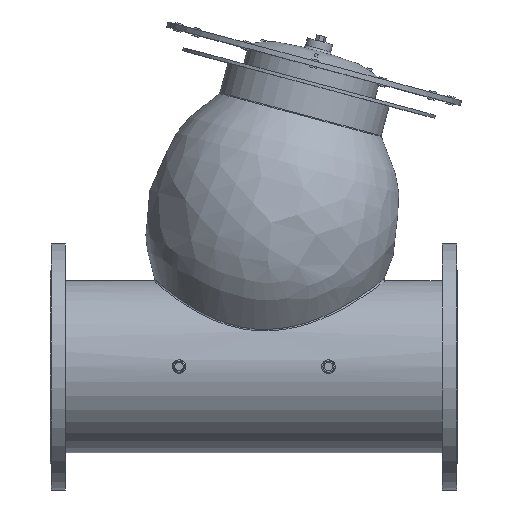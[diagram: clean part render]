
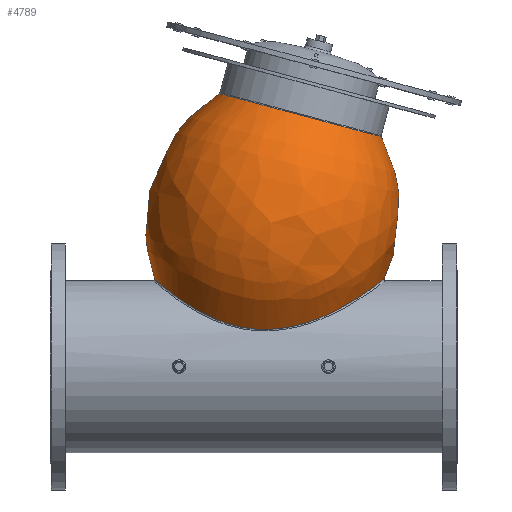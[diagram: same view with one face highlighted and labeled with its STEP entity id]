
A CAD part, top view. The second image highlights one B-rep face of the part: STEP entity #4789.
In plain terms, the highlighted free-form (B-spline) face has degree [2, 2] with [3, 9] control points.
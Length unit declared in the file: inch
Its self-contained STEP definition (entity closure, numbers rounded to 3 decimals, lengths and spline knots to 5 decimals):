
#1366=B_SPLINE_CURVE_WITH_KNOTS('',3,(#6844,#6845,#6846,#6847,#6848,#6849,
#6850,#6851,#6852,#6853,#6854,#6855,#6856,#6857,#6858,#6859,#6860,#6861,
#6862,#6863,#6864,#6865,#6866,#6867,#6868,#6869,#6870,#6871,#6872,#6873),
 .UNSPECIFIED.,.F.,.F.,(4,1,1,1,1,1,1,1,1,1,1,1,1,1,1,1,1,1,1,1,1,1,1,1,
1,1,1,4),(0.,2.74343,5.48685,8.23028,
10.97371,16.46056,21.94742,25.60532,32.92113,
36.57903,40.23693,43.89484,48.77204,51.21064,
58.52645,62.18435,65.84226,69.50016,73.15806,
76.81597,80.47387,82.91247,87.78968,92.66688,
95.10548,102.42129,106.07919,109.45587),
 .UNSPECIFIED.);
#1367=B_SPLINE_CURVE_WITH_KNOTS('',3,(#6874,#6875,#6876,#6877,#6878,#6879,
#6880,#6881,#6882,#6883,#6884,#6885,#6886,#6887),.UNSPECIFIED.,.F.,.F.,
(4,1,1,1,1,1,1,1,1,1,1,4),(109.45587,109.73709,113.395,
117.0529,124.36871,131.68451,137.17137,142.65822,
145.40165,148.14508,150.8885,153.63193),
 .UNSPECIFIED.);
#1395=(
BOUNDED_CURVE()
B_SPLINE_CURVE(2,(#6840,#6841,#6842),.UNSPECIFIED.,.F.,.F.)
B_SPLINE_CURVE_WITH_KNOTS((3,3),(-0.75121,0.80686),
 .UNSPECIFIED.)
CURVE()
GEOMETRIC_REPRESENTATION_ITEM()
RATIONAL_B_SPLINE_CURVE((1.,0.711,0.998))
REPRESENTATION_ITEM('')
);
#1398=(
BOUNDED_SURFACE()
B_SPLINE_SURFACE(2,2,((#6812,#6813,#6814,#6815,#6816,#6817,#6818,#6819,
#6820),(#6821,#6822,#6823,#6824,#6825,#6826,#6827,#6828,#6829),(#6830,#6831,
#6832,#6833,#6834,#6835,#6836,#6837,#6838)),.UNSPECIFIED.,.F.,.T.,.F.)
B_SPLINE_SURFACE_WITH_KNOTS((3,3),(3,2,2,2,3),(-0.81207,0.75121),
(-3.14159,-1.5708,0.,1.5708,3.14159),
 .UNSPECIFIED.)
GEOMETRIC_REPRESENTATION_ITEM()
RATIONAL_B_SPLINE_SURFACE(((1.,0.707,1.,0.707,1.,
0.707,1.,0.707,1.),(0.71,0.502,
0.71,0.502,0.71,0.502,
0.71,0.502,0.71),(1.,0.707,
1.,0.707,1.,0.707,1.,0.707,1.)))
REPRESENTATION_ITEM('')
SURFACE()
);
#1599=FACE_OUTER_BOUND('',#1906,.T.);
#1906=EDGE_LOOP('',(#3526,#3527,#3528,#3529,#3530,#3531));
#2342=CIRCLE('',#5129,8.04037);
#2343=CIRCLE('',#5130,8.04037);
#2451=VERTEX_POINT('',#6806);
#2452=VERTEX_POINT('',#6807);
#2454=VERTEX_POINT('',#6839);
#2455=VERTEX_POINT('',#6843);
#2900=EDGE_CURVE('',#2451,#2452,#2342,.T.);
#2901=EDGE_CURVE('',#2452,#2451,#2343,.T.);
#2903=EDGE_CURVE('',#2452,#2454,#1395,.T.);
#2904=EDGE_CURVE('',#2455,#2454,#1366,.T.);
#2905=EDGE_CURVE('',#2454,#2455,#1367,.T.);
#3526=ORIENTED_EDGE('',*,*,#2900,.F.);
#3527=ORIENTED_EDGE('',*,*,#2901,.F.);
#3528=ORIENTED_EDGE('',*,*,#2903,.T.);
#3529=ORIENTED_EDGE('',*,*,#2904,.F.);
#3530=ORIENTED_EDGE('',*,*,#2905,.F.);
#3531=ORIENTED_EDGE('',*,*,#2903,.F.);
#4789=ADVANCED_FACE('',(#1599),#1398,.F.);
#5129=AXIS2_PLACEMENT_3D('',#6808,#5604,#5605);
#5130=AXIS2_PLACEMENT_3D('',#6809,#5606,#5607);
#5604=DIRECTION('center_axis',(0.259,0.966,0.));
#5605=DIRECTION('ref_axis',(0.966,-0.259,0.));
#5606=DIRECTION('center_axis',(0.259,0.966,0.));
#5607=DIRECTION('ref_axis',(0.966,-0.259,0.));
#6806=CARTESIAN_POINT('',(-3.30877,26.18122,0.));
#6807=CARTESIAN_POINT('',(4.45763,24.10021,-8.04037));
#6808=CARTESIAN_POINT('Origin',(4.45763,24.10021,0.));
#6809=CARTESIAN_POINT('Origin',(4.45763,24.10021,0.));
#6812=CARTESIAN_POINT('Ctrl Pts',(-1.00955,3.6964,-7.39734));
#6813=CARTESIAN_POINT('Ctrl Pts',(-8.15483,5.61097,-7.39734));
#6814=CARTESIAN_POINT('Ctrl Pts',(-8.15483,5.61097,0.));
#6815=CARTESIAN_POINT('Ctrl Pts',(-8.15483,5.61097,7.39734));
#6816=CARTESIAN_POINT('Ctrl Pts',(-1.00955,3.6964,7.39734));
#6817=CARTESIAN_POINT('Ctrl Pts',(6.13573,1.78183,7.39734));
#6818=CARTESIAN_POINT('Ctrl Pts',(6.13573,1.78183,0.));
#6819=CARTESIAN_POINT('Ctrl Pts',(6.13573,1.78183,-7.39734));
#6820=CARTESIAN_POINT('Ctrl Pts',(-1.00955,3.6964,-7.39734));
#6821=CARTESIAN_POINT('Ctrl Pts',(1.64145,13.59007,-18.20159));
#6822=CARTESIAN_POINT('Ctrl Pts',(-15.93994,18.30099,-18.20159));
#6823=CARTESIAN_POINT('Ctrl Pts',(-15.93994,18.30099,0.));
#6824=CARTESIAN_POINT('Ctrl Pts',(-15.93994,18.30099,18.20159));
#6825=CARTESIAN_POINT('Ctrl Pts',(1.64145,13.59007,18.20159));
#6826=CARTESIAN_POINT('Ctrl Pts',(19.22284,8.87915,18.20159));
#6827=CARTESIAN_POINT('Ctrl Pts',(19.22284,8.87915,0.));
#6828=CARTESIAN_POINT('Ctrl Pts',(19.22284,8.87915,-18.20159));
#6829=CARTESIAN_POINT('Ctrl Pts',(1.64145,13.59007,-18.20159));
#6830=CARTESIAN_POINT('Ctrl Pts',(4.45763,24.10021,-8.04037));
#6831=CARTESIAN_POINT('Ctrl Pts',(-3.30877,26.18122,-8.04037));
#6832=CARTESIAN_POINT('Ctrl Pts',(-3.30877,26.18122,0.));
#6833=CARTESIAN_POINT('Ctrl Pts',(-3.30877,26.18122,8.04037));
#6834=CARTESIAN_POINT('Ctrl Pts',(4.45763,24.10021,8.04037));
#6835=CARTESIAN_POINT('Ctrl Pts',(12.22403,22.01921,8.04037));
#6836=CARTESIAN_POINT('Ctrl Pts',(12.22403,22.01921,0.));
#6837=CARTESIAN_POINT('Ctrl Pts',(12.22403,22.01921,-8.04037));
#6838=CARTESIAN_POINT('Ctrl Pts',(4.45763,24.10021,-8.04037));
#6839=CARTESIAN_POINT('',(-0.99697,3.74336,-7.44838));
#6840=CARTESIAN_POINT('Ctrl Pts',(4.45763,24.10021,-8.04037));
#6841=CARTESIAN_POINT('Ctrl Pts',(1.65465,13.63935,-18.15395));
#6842=CARTESIAN_POINT('Ctrl Pts',(-0.99697,3.74336,-7.44838));
#6843=CARTESIAN_POINT('',(12.48498,8.42948,0.));
#6844=CARTESIAN_POINT('Ctrl Pts',(12.48499,8.4295,0.));
#6845=CARTESIAN_POINT('Ctrl Pts',(12.48499,8.4295,0.37951));
#6846=CARTESIAN_POINT('Ctrl Pts',(12.41929,8.37669,1.13852));
#6847=CARTESIAN_POINT('Ctrl Pts',(12.1324,8.14935,2.22353));
#6848=CARTESIAN_POINT('Ctrl Pts',(11.6809,7.80159,3.21484));
#6849=CARTESIAN_POINT('Ctrl Pts',(10.89501,7.22095,4.38575));
#6850=CARTESIAN_POINT('Ctrl Pts',(9.63664,6.36063,5.54604));
#6851=CARTESIAN_POINT('Ctrl Pts',(8.03365,5.43663,6.39637));
#6852=CARTESIAN_POINT('Ctrl Pts',(6.05543,4.51103,7.06052));
#6853=CARTESIAN_POINT('Ctrl Pts',(4.14213,3.88261,7.3896));
#6854=CARTESIAN_POINT('Ctrl Pts',(2.14162,3.57692,7.53026));
#6855=CARTESIAN_POINT('Ctrl Pts',(0.62129,3.53399,7.54725));
#6856=CARTESIAN_POINT('Ctrl Pts',(-1.05758,3.70813,7.46704));
#6857=CARTESIAN_POINT('Ctrl Pts',(-2.5194,4.09209,7.27632));
#6858=CARTESIAN_POINT('Ctrl Pts',(-4.36381,4.80823,6.85111));
#6859=CARTESIAN_POINT('Ctrl Pts',(-5.90657,5.66676,6.22461));
#6860=CARTESIAN_POINT('Ctrl Pts',(-7.328,6.64724,5.1558));
#6861=CARTESIAN_POINT('Ctrl Pts',(-8.23321,7.34147,4.1452));
#6862=CARTESIAN_POINT('Ctrl Pts',(-8.93801,7.92596,2.92287));
#6863=CARTESIAN_POINT('Ctrl Pts',(-9.39245,8.32255,1.51725));
#6864=CARTESIAN_POINT('Ctrl Pts',(-9.55066,8.46441,-0.00036));
#6865=CARTESIAN_POINT('Ctrl Pts',(-9.40993,8.33817,-1.34821));
#6866=CARTESIAN_POINT('Ctrl Pts',(-9.00508,7.98444,-2.77402));
#6867=CARTESIAN_POINT('Ctrl Pts',(-8.25902,7.35576,-4.1737));
#6868=CARTESIAN_POINT('Ctrl Pts',(-7.21655,6.56406,-5.25567));
#6869=CARTESIAN_POINT('Ctrl Pts',(-5.76647,5.589,-6.28159));
#6870=CARTESIAN_POINT('Ctrl Pts',(-4.2235,4.72976,-6.90795));
#6871=CARTESIAN_POINT('Ctrl Pts',(-2.3947,4.0552,-7.29366));
#6872=CARTESIAN_POINT('Ctrl Pts',(-1.45443,3.82601,-7.40799));
#6873=CARTESIAN_POINT('Ctrl Pts',(-0.99697,3.7433,-7.44832));
#6874=CARTESIAN_POINT('Ctrl Pts',(-0.99697,3.7433,-7.44832));
#6875=CARTESIAN_POINT('Ctrl Pts',(-0.95888,3.73641,-7.45168));
#6876=CARTESIAN_POINT('Ctrl Pts',(-0.42464,3.64258,-7.4973));
#6877=CARTESIAN_POINT('Ctrl Pts',(0.62086,3.53413,-7.54767));
#6878=CARTESIAN_POINT('Ctrl Pts',(2.64941,3.59068,-7.52346));
#6879=CARTESIAN_POINT('Ctrl Pts',(5.12984,4.13087,-7.27908));
#6880=CARTESIAN_POINT('Ctrl Pts',(7.63272,5.20544,-6.6086));
#6881=CARTESIAN_POINT('Ctrl Pts',(9.63673,6.36069,-5.5462));
#6882=CARTESIAN_POINT('Ctrl Pts',(10.89491,7.2209,-4.38571));
#6883=CARTESIAN_POINT('Ctrl Pts',(11.68089,7.80158,-3.21493));
#6884=CARTESIAN_POINT('Ctrl Pts',(12.13238,8.14935,-2.22353));
#6885=CARTESIAN_POINT('Ctrl Pts',(12.4193,8.37669,-1.13852));
#6886=CARTESIAN_POINT('Ctrl Pts',(12.48499,8.4295,-0.37951));
#6887=CARTESIAN_POINT('Ctrl Pts',(12.48499,8.4295,0.));
